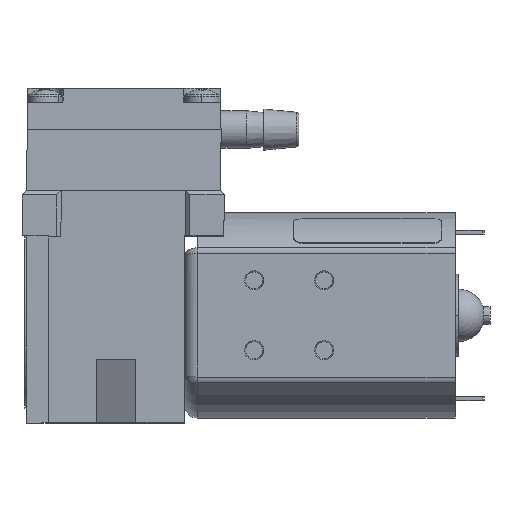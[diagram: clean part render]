
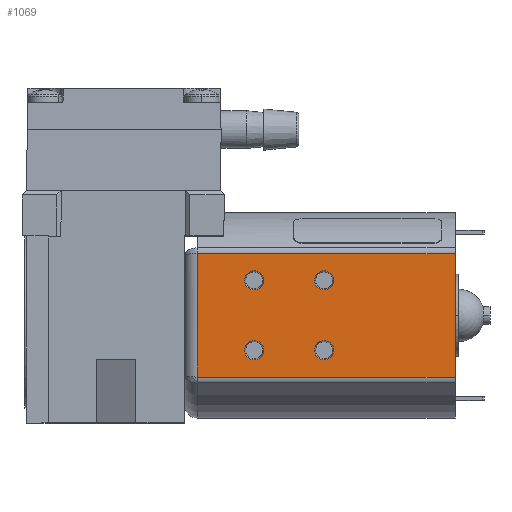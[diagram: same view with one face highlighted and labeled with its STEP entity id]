
A CAD part, top view. The second image highlights one B-rep face of the part: STEP entity #1069.
In plain terms, the highlighted planar face has unit normal (0, 0, 1).
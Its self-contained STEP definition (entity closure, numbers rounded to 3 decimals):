
#280 = CARTESIAN_POINT ( 'NONE',  ( 8., 4., 9.1 ) ) ;
#292 = DIRECTION ( 'NONE',  ( 0., 0., 1. ) ) ;
#402 = CARTESIAN_POINT ( 'NONE',  ( -15.65, 7.433, 9.1 ) ) ;
#776 = ORIENTED_EDGE ( 'NONE', *, *, #2043, .T. ) ;
#852 = DIRECTION ( 'NONE',  ( -1., 0., 0. ) ) ;
#861 = CARTESIAN_POINT ( 'NONE',  ( -15.65, -7.068, 9.1 ) ) ;
#1026 = CARTESIAN_POINT ( 'NONE',  ( 1.5, 7.068, 9.1 ) ) ;
#1069 = ADVANCED_FACE ( 'NONE', ( #7125, #9707, #3001, #16021, #12653 ), #1670, .F. ) ;
#1229 = CIRCLE ( 'NONE', #4065, 1.1 ) ;
#1250 = EDGE_CURVE ( 'NONE', #15265, #2676, #3618, .T. ) ;
#1547 = CARTESIAN_POINT ( 'NONE',  ( 8., -4., 9.1 ) ) ;
#1553 = DIRECTION ( 'NONE',  ( 1., 0., 0. ) ) ;
#1670 = PLANE ( 'NONE',  #11723 ) ;
#1779 = CARTESIAN_POINT ( 'NONE',  ( 31., 7.433, 9.1 ) ) ;
#1864 = DIRECTION ( 'NONE',  ( 1., 0., 0. ) ) ;
#2043 = EDGE_CURVE ( 'NONE', #14109, #10415, #11246, .T. ) ;
#2082 = EDGE_LOOP ( 'NONE', ( #3868, #15710, #776, #14474 ) ) ;
#2115 = EDGE_CURVE ( 'NONE', #2376, #8632, #9677, .T. ) ;
#2159 = AXIS2_PLACEMENT_3D ( 'NONE', #3121, #10660, #1864 ) ;
#2376 = VERTEX_POINT ( 'NONE', #4811 ) ;
#2385 = LINE ( 'NONE', #4914, #15391 ) ;
#2676 = VERTEX_POINT ( 'NONE', #3022 ) ;
#2804 = DIRECTION ( 'NONE',  ( -1., 0., 0. ) ) ;
#2892 = AXIS2_PLACEMENT_3D ( 'NONE', #7798, #292, #9095 ) ;
#3001 = FACE_BOUND ( 'NONE', #4540, .T. ) ;
#3022 = CARTESIAN_POINT ( 'NONE',  ( 14.9, 4., 9.1 ) ) ;
#3121 = CARTESIAN_POINT ( 'NONE',  ( 16., 4., 9.1 ) ) ;
#3397 = LINE ( 'NONE', #14346, #9689 ) ;
#3422 = ORIENTED_EDGE ( 'NONE', *, *, #4036, .F. ) ;
#3618 = CIRCLE ( 'NONE', #2159, 1.1 ) ;
#3688 = CARTESIAN_POINT ( 'NONE',  ( 14.9, -4., 9.1 ) ) ;
#3734 = EDGE_CURVE ( 'NONE', #9874, #15497, #4311, .T. ) ;
#3868 = ORIENTED_EDGE ( 'NONE', *, *, #4745, .T. ) ;
#3979 = CIRCLE ( 'NONE', #11387, 1.1 ) ;
#4036 = EDGE_CURVE ( 'NONE', #10180, #11120, #3979, .T. ) ;
#4065 = AXIS2_PLACEMENT_3D ( 'NONE', #280, #9080, #1553 ) ;
#4311 = CIRCLE ( 'NONE', #9792, 1.1 ) ;
#4540 = EDGE_LOOP ( 'NONE', ( #5461, #14707 ) ) ;
#4745 = EDGE_CURVE ( 'NONE', #13051, #6101, #2385, .T. ) ;
#4811 = CARTESIAN_POINT ( 'NONE',  ( 6.9, 4., 9.1 ) ) ;
#4861 = AXIS2_PLACEMENT_3D ( 'NONE', #7440, #16271, #8713 ) ;
#4914 = CARTESIAN_POINT ( 'NONE',  ( 1.5, 7.433, 9.1 ) ) ;
#5103 = CARTESIAN_POINT ( 'NONE',  ( 31., 7.068, 9.1 ) ) ;
#5461 = ORIENTED_EDGE ( 'NONE', *, *, #1250, .F. ) ;
#5616 = CARTESIAN_POINT ( 'NONE',  ( 6.9, -4., 9.1 ) ) ;
#5802 = DIRECTION ( 'NONE',  ( 0., 0., 1. ) ) ;
#6070 = VECTOR ( 'NONE', #9659, 1000. ) ;
#6101 = VERTEX_POINT ( 'NONE', #13162 ) ;
#6557 = EDGE_LOOP ( 'NONE', ( #16270, #15521 ) ) ;
#6807 = DIRECTION ( 'NONE',  ( 0., 1., 0. ) ) ;
#6881 = EDGE_CURVE ( 'NONE', #6101, #14109, #12742, .T. ) ;
#7125 = FACE_BOUND ( 'NONE', #15736, .T. ) ;
#7440 = CARTESIAN_POINT ( 'NONE',  ( 16., 4., 9.1 ) ) ;
#7502 = CARTESIAN_POINT ( 'NONE',  ( 16., -4., 9.1 ) ) ;
#7789 = CIRCLE ( 'NONE', #4861, 1.1 ) ;
#7798 = CARTESIAN_POINT ( 'NONE',  ( 8., 4., 9.1 ) ) ;
#7910 = DIRECTION ( 'NONE',  ( -1., 0., 0. ) ) ;
#8069 = CARTESIAN_POINT ( 'NONE',  ( 9.1, -4., 9.1 ) ) ;
#8083 = CARTESIAN_POINT ( 'NONE',  ( 9.1, 4., 9.1 ) ) ;
#8139 = EDGE_LOOP ( 'NONE', ( #14093, #13260 ) ) ;
#8367 = DIRECTION ( 'NONE',  ( 0., 0., 1. ) ) ;
#8632 = VERTEX_POINT ( 'NONE', #8083 ) ;
#8713 = DIRECTION ( 'NONE',  ( 1., 0., 0. ) ) ;
#8769 = DIRECTION ( 'NONE',  ( -1., 0., 0. ) ) ;
#9080 = DIRECTION ( 'NONE',  ( 0., 0., 1. ) ) ;
#9086 = CARTESIAN_POINT ( 'NONE',  ( 17.1, 4., 9.1 ) ) ;
#9095 = DIRECTION ( 'NONE',  ( 1., 0., 0. ) ) ;
#9193 = DIRECTION ( 'NONE',  ( 0., 0., -1. ) ) ;
#9213 = AXIS2_PLACEMENT_3D ( 'NONE', #7502, #16326, #8769 ) ;
#9659 = DIRECTION ( 'NONE',  ( 1., 0., 0. ) ) ;
#9677 = CIRCLE ( 'NONE', #2892, 1.1 ) ;
#9689 = VECTOR ( 'NONE', #10583, 1000. ) ;
#9707 = FACE_BOUND ( 'NONE', #6557, .T. ) ;
#9792 = AXIS2_PLACEMENT_3D ( 'NONE', #15934, #8367, #852 ) ;
#9874 = VERTEX_POINT ( 'NONE', #3688 ) ;
#10180 = VERTEX_POINT ( 'NONE', #5616 ) ;
#10294 = CIRCLE ( 'NONE', #9213, 1.1 ) ;
#10341 = EDGE_CURVE ( 'NONE', #15497, #9874, #10294, .T. ) ;
#10343 = DIRECTION ( 'NONE',  ( 0., 0., 1. ) ) ;
#10415 = VERTEX_POINT ( 'NONE', #5103 ) ;
#10583 = DIRECTION ( 'NONE',  ( -1., 0., 0. ) ) ;
#10618 = CARTESIAN_POINT ( 'NONE',  ( 31., -7.068, 9.1 ) ) ;
#10640 = EDGE_CURVE ( 'NONE', #10415, #13051, #3397, .T. ) ;
#10660 = DIRECTION ( 'NONE',  ( 0., 0., 1. ) ) ;
#10836 = CARTESIAN_POINT ( 'NONE',  ( 17.1, -4., 9.1 ) ) ;
#11082 = EDGE_CURVE ( 'NONE', #8632, #2376, #1229, .T. ) ;
#11120 = VERTEX_POINT ( 'NONE', #8069 ) ;
#11202 = EDGE_CURVE ( 'NONE', #11120, #10180, #15212, .T. ) ;
#11246 = LINE ( 'NONE', #1779, #13829 ) ;
#11387 = AXIS2_PLACEMENT_3D ( 'NONE', #1547, #10343, #2804 ) ;
#11641 = AXIS2_PLACEMENT_3D ( 'NONE', #13327, #5802, #14608 ) ;
#11723 = AXIS2_PLACEMENT_3D ( 'NONE', #402, #9193, #7910 ) ;
#12653 = FACE_OUTER_BOUND ( 'NONE', #2082, .T. ) ;
#12742 = LINE ( 'NONE', #861, #6070 ) ;
#13051 = VERTEX_POINT ( 'NONE', #1026 ) ;
#13162 = CARTESIAN_POINT ( 'NONE',  ( 1.5, -7.068, 9.1 ) ) ;
#13260 = ORIENTED_EDGE ( 'NONE', *, *, #2115, .F. ) ;
#13327 = CARTESIAN_POINT ( 'NONE',  ( 8., -4., 9.1 ) ) ;
#13476 = ORIENTED_EDGE ( 'NONE', *, *, #11202, .F. ) ;
#13776 = DIRECTION ( 'NONE',  ( 0., -1., 0. ) ) ;
#13829 = VECTOR ( 'NONE', #6807, 1000. ) ;
#14093 = ORIENTED_EDGE ( 'NONE', *, *, #11082, .F. ) ;
#14109 = VERTEX_POINT ( 'NONE', #10618 ) ;
#14346 = CARTESIAN_POINT ( 'NONE',  ( -15.65, 7.068, 9.1 ) ) ;
#14474 = ORIENTED_EDGE ( 'NONE', *, *, #10640, .T. ) ;
#14608 = DIRECTION ( 'NONE',  ( -1., 0., 0. ) ) ;
#14707 = ORIENTED_EDGE ( 'NONE', *, *, #16258, .F. ) ;
#15212 = CIRCLE ( 'NONE', #11641, 1.1 ) ;
#15265 = VERTEX_POINT ( 'NONE', #9086 ) ;
#15391 = VECTOR ( 'NONE', #13776, 1000. ) ;
#15497 = VERTEX_POINT ( 'NONE', #10836 ) ;
#15521 = ORIENTED_EDGE ( 'NONE', *, *, #10341, .F. ) ;
#15710 = ORIENTED_EDGE ( 'NONE', *, *, #6881, .T. ) ;
#15736 = EDGE_LOOP ( 'NONE', ( #3422, #13476 ) ) ;
#15934 = CARTESIAN_POINT ( 'NONE',  ( 16., -4., 9.1 ) ) ;
#16021 = FACE_BOUND ( 'NONE', #8139, .T. ) ;
#16258 = EDGE_CURVE ( 'NONE', #2676, #15265, #7789, .T. ) ;
#16270 = ORIENTED_EDGE ( 'NONE', *, *, #3734, .F. ) ;
#16271 = DIRECTION ( 'NONE',  ( 0., 0., 1. ) ) ;
#16326 = DIRECTION ( 'NONE',  ( 0., 0., 1. ) ) ;
